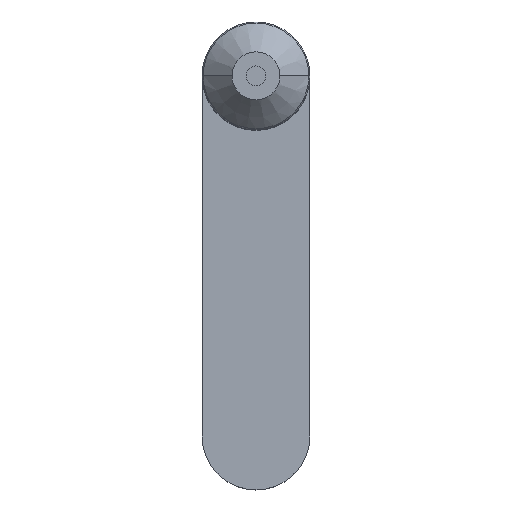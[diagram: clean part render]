
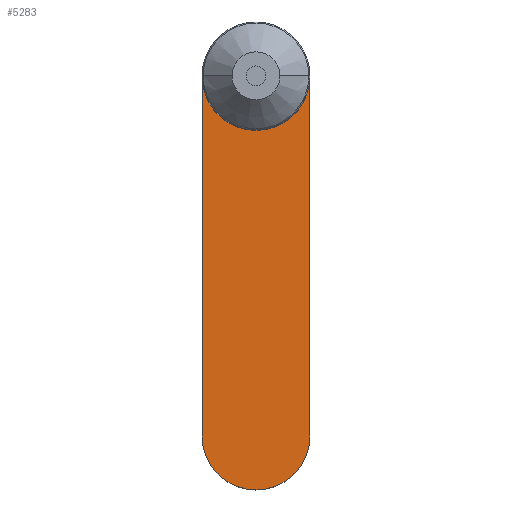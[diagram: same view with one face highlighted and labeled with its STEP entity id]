
A CAD part, top view. The second image highlights one B-rep face of the part: STEP entity #5283.
In plain terms, the highlighted planar face has unit normal (0, 0, 1).
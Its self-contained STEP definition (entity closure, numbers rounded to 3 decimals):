
#357 = AXIS2_PLACEMENT_3D ( 'NONE', #5871, #3954, #1264 ) ;
#635 = DIRECTION ( 'NONE',  ( 0., -1., 0. ) ) ;
#723 = VERTEX_POINT ( 'NONE', #10601 ) ;
#982 = DIRECTION ( 'NONE',  ( 0., 1., 0. ) ) ;
#1264 = DIRECTION ( 'NONE',  ( 0., -1., 0. ) ) ;
#1804 = ORIENTED_EDGE ( 'NONE', *, *, #4214, .T. ) ;
#2202 = CARTESIAN_POINT ( 'NONE',  ( 0., -90., 15. ) ) ;
#2385 = CARTESIAN_POINT ( 'NONE',  ( 13.5, 0., 15. ) ) ;
#2523 = DIRECTION ( 'NONE',  ( 0., 0., -1. ) ) ;
#2599 = CARTESIAN_POINT ( 'NONE',  ( -13.5, 0., 15. ) ) ;
#2680 = AXIS2_PLACEMENT_3D ( 'NONE', #9898, #2523, #635 ) ;
#2759 = VERTEX_POINT ( 'NONE', #4248 ) ;
#2798 = EDGE_LOOP ( 'NONE', ( #6059, #4495, #1804, #8468, #9932 ) ) ;
#3313 = VECTOR ( 'NONE', #8990, 1000. ) ;
#3789 = CARTESIAN_POINT ( 'NONE',  ( 0., -90., 15. ) ) ;
#3910 = CIRCLE ( 'NONE', #357, 13.5 ) ;
#3954 = DIRECTION ( 'NONE',  ( 0., 0., -1. ) ) ;
#4080 = EDGE_CURVE ( 'NONE', #4221, #10084, #9524, .T. ) ;
#4214 = EDGE_CURVE ( 'NONE', #723, #2759, #3910, .T. ) ;
#4221 = VERTEX_POINT ( 'NONE', #5837 ) ;
#4248 = CARTESIAN_POINT ( 'NONE',  ( -13.5, 0., 15. ) ) ;
#4495 = ORIENTED_EDGE ( 'NONE', *, *, #5570, .T. ) ;
#5283 = ADVANCED_FACE ( 'NONE', ( #9213 ), #11258, .T. ) ;
#5570 = EDGE_CURVE ( 'NONE', #10084, #723, #9362, .T. ) ;
#5755 = LINE ( 'NONE', #2599, #3313 ) ;
#5837 = CARTESIAN_POINT ( 'NONE',  ( 13.5, -90., 15. ) ) ;
#5871 = CARTESIAN_POINT ( 'NONE',  ( 0., 0., 15. ) ) ;
#6059 = ORIENTED_EDGE ( 'NONE', *, *, #4080, .T. ) ;
#6087 = EDGE_CURVE ( 'NONE', #2759, #7196, #5755, .T. ) ;
#6207 = AXIS2_PLACEMENT_3D ( 'NONE', #3789, #6551, #9324 ) ;
#6551 = DIRECTION ( 'NONE',  ( 0., 0., 1. ) ) ;
#7124 = CARTESIAN_POINT ( 'NONE',  ( -13.5, -90., 15. ) ) ;
#7196 = VERTEX_POINT ( 'NONE', #7124 ) ;
#7319 = CARTESIAN_POINT ( 'NONE',  ( 13.5, 0., 15. ) ) ;
#8468 = ORIENTED_EDGE ( 'NONE', *, *, #6087, .T. ) ;
#8990 = DIRECTION ( 'NONE',  ( 0., -1., 0. ) ) ;
#9189 = CIRCLE ( 'NONE', #10399, 13.5 ) ;
#9213 = FACE_OUTER_BOUND ( 'NONE', #2798, .T. ) ;
#9324 = DIRECTION ( 'NONE',  ( 0., -1., 0. ) ) ;
#9362 = CIRCLE ( 'NONE', #2680, 13.5 ) ;
#9470 = EDGE_CURVE ( 'NONE', #7196, #4221, #9189, .T. ) ;
#9524 = LINE ( 'NONE', #7319, #11693 ) ;
#9898 = CARTESIAN_POINT ( 'NONE',  ( 0., 0., 15. ) ) ;
#9932 = ORIENTED_EDGE ( 'NONE', *, *, #9470, .T. ) ;
#10084 = VERTEX_POINT ( 'NONE', #2385 ) ;
#10338 = DIRECTION ( 'NONE',  ( 0., -1., 0. ) ) ;
#10380 = DIRECTION ( 'NONE',  ( 0., 0., 1. ) ) ;
#10399 = AXIS2_PLACEMENT_3D ( 'NONE', #2202, #10380, #10338 ) ;
#10601 = CARTESIAN_POINT ( 'NONE',  ( 0., -13.5, 15. ) ) ;
#11258 = PLANE ( 'NONE',  #6207 ) ;
#11693 = VECTOR ( 'NONE', #982, 1000. ) ;
